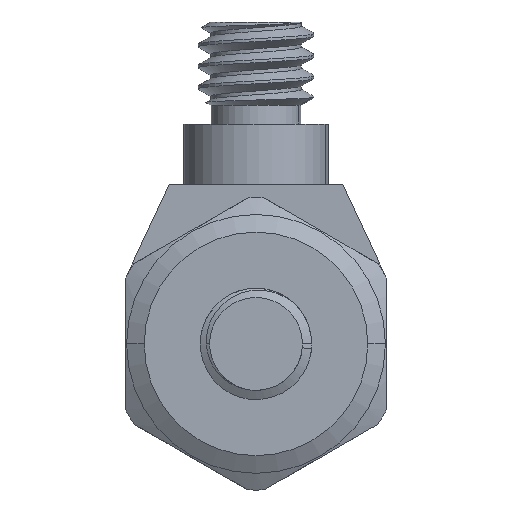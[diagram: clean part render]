
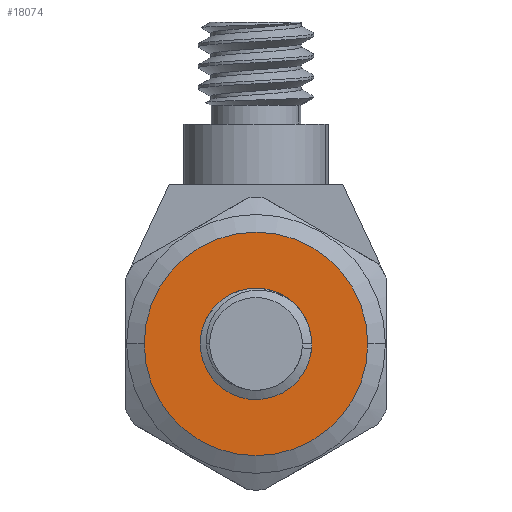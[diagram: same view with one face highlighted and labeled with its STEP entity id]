
A CAD part, front view. The second image highlights one B-rep face of the part: STEP entity #18074.
In plain terms, the highlighted planar face has unit normal (0, -1, 0).
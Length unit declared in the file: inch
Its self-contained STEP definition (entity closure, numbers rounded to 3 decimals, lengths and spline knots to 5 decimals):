
#135 = FACE_OUTER_BOUND ( 'NONE', #12248, .T. ) ;
#3873 = VERTEX_POINT ( 'NONE', #6494 ) ;
#5148 = AXIS2_PLACEMENT_3D ( 'NONE', #10687, #10643, #10623 ) ;
#5501 = DIRECTION ( 'NONE',  ( -1., 0., 0. ) ) ;
#5527 = DIRECTION ( 'NONE',  ( 0., 1., 0. ) ) ;
#5534 = CARTESIAN_POINT ( 'NONE',  ( 0., -0.177, 0. ) ) ;
#6494 = CARTESIAN_POINT ( 'NONE',  ( -0.12045, -0.177, 0. ) ) ;
#6875 = ORIENTED_EDGE ( 'NONE', *, *, #23168, .T. ) ;
#7304 = EDGE_CURVE ( 'NONE', #17113, #3873, #16428, .T. ) ;
#7458 = DIRECTION ( 'NONE',  ( -1., 0., 0. ) ) ;
#7482 = DIRECTION ( 'NONE',  ( 0., 1., 0. ) ) ;
#7520 = CARTESIAN_POINT ( 'NONE',  ( 0., -0.177, 0. ) ) ;
#7883 = AXIS2_PLACEMENT_3D ( 'NONE', #5534, #5527, #5501 ) ;
#8987 = AXIS2_PLACEMENT_3D ( 'NONE', #12469, #12445, #12411 ) ;
#10623 = DIRECTION ( 'NONE',  ( -1., 0., 0. ) ) ;
#10643 = DIRECTION ( 'NONE',  ( 0., 1., 0. ) ) ;
#10687 = CARTESIAN_POINT ( 'NONE',  ( 0., -0.177, 0. ) ) ;
#10708 = CIRCLE ( 'NONE', #22722, 0.12045 ) ;
#12248 = EDGE_LOOP ( 'NONE', ( #27545, #23455 ) ) ;
#12411 = DIRECTION ( 'NONE',  ( -1., 0., 0. ) ) ;
#12445 = DIRECTION ( 'NONE',  ( 0., 1., 0. ) ) ;
#12469 = CARTESIAN_POINT ( 'NONE',  ( 0., -0.177, 0.12045 ) ) ;
#12821 = CIRCLE ( 'NONE', #7883, 0.0435 ) ;
#12889 = PLANE ( 'NONE',  #8987 ) ;
#13797 = EDGE_CURVE ( 'NONE', #3873, #17113, #10708, .T. ) ;
#15185 = CARTESIAN_POINT ( 'NONE',  ( -0.0435, -0.177, 0. ) ) ;
#15831 = CARTESIAN_POINT ( 'NONE',  ( 0.0435, -0.177, 0. ) ) ;
#16428 = CIRCLE ( 'NONE', #19676, 0.12045 ) ;
#16611 = EDGE_CURVE ( 'NONE', #26873, #26020, #28596, .T. ) ;
#17113 = VERTEX_POINT ( 'NONE', #27663 ) ;
#18074 = ADVANCED_FACE ( 'NONE', ( #135, #20070 ), #12889, .F. ) ;
#19123 = EDGE_LOOP ( 'NONE', ( #20357, #6875 ) ) ;
#19676 = AXIS2_PLACEMENT_3D ( 'NONE', #27825, #27738, #27706 ) ;
#20070 = FACE_BOUND ( 'NONE', #19123, .T. ) ;
#20357 = ORIENTED_EDGE ( 'NONE', *, *, #16611, .T. ) ;
#22722 = AXIS2_PLACEMENT_3D ( 'NONE', #7520, #7482, #7458 ) ;
#23168 = EDGE_CURVE ( 'NONE', #26020, #26873, #12821, .T. ) ;
#23455 = ORIENTED_EDGE ( 'NONE', *, *, #7304, .F. ) ;
#26020 = VERTEX_POINT ( 'NONE', #15831 ) ;
#26873 = VERTEX_POINT ( 'NONE', #15185 ) ;
#27545 = ORIENTED_EDGE ( 'NONE', *, *, #13797, .F. ) ;
#27663 = CARTESIAN_POINT ( 'NONE',  ( 0.12045, -0.177, 0. ) ) ;
#27706 = DIRECTION ( 'NONE',  ( -1., 0., 0. ) ) ;
#27738 = DIRECTION ( 'NONE',  ( 0., 1., 0. ) ) ;
#27825 = CARTESIAN_POINT ( 'NONE',  ( 0., -0.177, 0. ) ) ;
#28596 = CIRCLE ( 'NONE', #5148, 0.0435 ) ;
